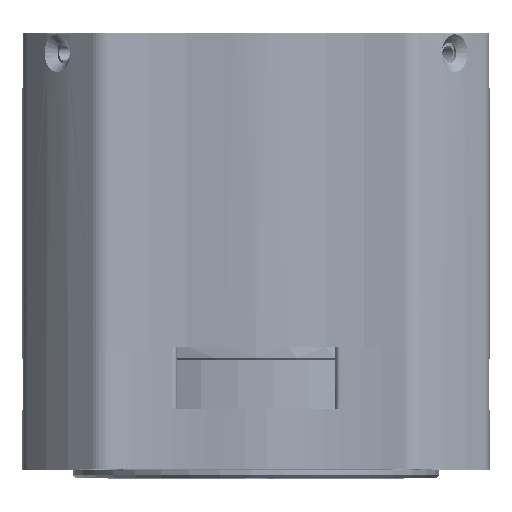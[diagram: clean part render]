
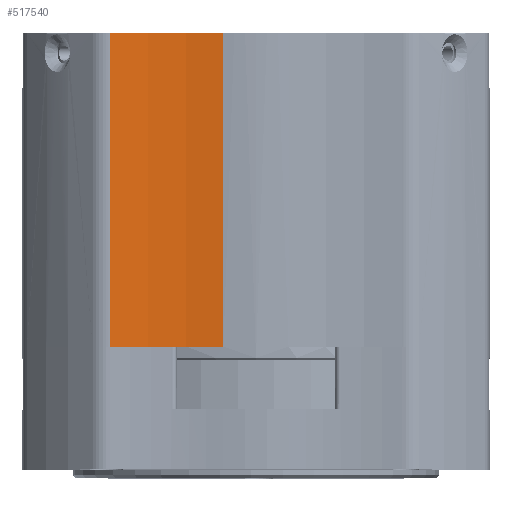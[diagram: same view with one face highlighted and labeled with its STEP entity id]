
A CAD part, top view. The second image highlights one B-rep face of the part: STEP entity #517540.
In plain terms, the highlighted cylindrical face has radius 40 mm (diameter 80 mm), a partial arc.
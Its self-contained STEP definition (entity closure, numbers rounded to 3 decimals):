
#40297 = EDGE_CURVE ( 'NONE', #337484, #126814, #457236, .T. ) ;
#60674 = DIRECTION ( 'NONE',  ( 0., -1., 0. ) ) ;
#109225 = DIRECTION ( 'NONE',  ( 0., 0., 1. ) ) ;
#112405 = CARTESIAN_POINT ( 'NONE',  ( -9.035, 33.4, 64.319 ) ) ;
#114557 = VERTEX_POINT ( 'NONE', #224288 ) ;
#119976 = AXIS2_PLACEMENT_3D ( 'NONE', #497575, #290840, #488035 ) ;
#126814 = VERTEX_POINT ( 'NONE', #134873 ) ;
#133143 = ORIENTED_EDGE ( 'NONE', *, *, #602640, .F. ) ;
#134873 = CARTESIAN_POINT ( 'NONE',  ( -3.471, 33.4, 24.707 ) ) ;
#151672 = ORIENTED_EDGE ( 'NONE', *, *, #40297, .T. ) ;
#165734 = CARTESIAN_POINT ( 'NONE',  ( -3.471, 0., 24.707 ) ) ;
#168330 = VERTEX_POINT ( 'NONE', #425398 ) ;
#192131 = AXIS2_PLACEMENT_3D ( 'NONE', #112405, #60674, #109225 ) ;
#203181 = ORIENTED_EDGE ( 'NONE', *, *, #230660, .T. ) ;
#224288 = CARTESIAN_POINT ( 'NONE',  ( -15.561, 33.4, 24.855 ) ) ;
#230660 = EDGE_CURVE ( 'NONE', #168330, #337484, #295158, .T. ) ;
#233195 = DIRECTION ( 'NONE',  ( 0., -1., 0. ) ) ;
#235451 = ORIENTED_EDGE ( 'NONE', *, *, #479651, .F. ) ;
#275387 = CARTESIAN_POINT ( 'NONE',  ( -9.035, 0., 64.319 ) ) ;
#290840 = DIRECTION ( 'NONE',  ( 0., 1., 0. ) ) ;
#295158 = CIRCLE ( 'NONE', #399911, 40. ) ;
#301783 = DIRECTION ( 'NONE',  ( 0., 1., 0. ) ) ;
#337484 = VERTEX_POINT ( 'NONE', #165734 ) ;
#339372 = FACE_OUTER_BOUND ( 'NONE', #376582, .T. ) ;
#375555 = DIRECTION ( 'NONE',  ( 0., 0., 1. ) ) ;
#376582 = EDGE_LOOP ( 'NONE', ( #151672, #235451, #133143, #203181 ) ) ;
#399911 = AXIS2_PLACEMENT_3D ( 'NONE', #275387, #233195, #375555 ) ;
#402332 = CARTESIAN_POINT ( 'NONE',  ( -3.471, -1.5, 24.707 ) ) ;
#411546 = CARTESIAN_POINT ( 'NONE',  ( -15.561, -1.5, 24.855 ) ) ;
#425398 = CARTESIAN_POINT ( 'NONE',  ( -15.561, 0., 24.855 ) ) ;
#444398 = VECTOR ( 'NONE', #557417, 1000. ) ;
#457236 = LINE ( 'NONE', #402332, #444398 ) ;
#470854 = CIRCLE ( 'NONE', #192131, 40. ) ;
#479651 = EDGE_CURVE ( 'NONE', #114557, #126814, #470854, .T. ) ;
#488035 = DIRECTION ( 'NONE',  ( 0., 0., 1. ) ) ;
#497575 = CARTESIAN_POINT ( 'NONE',  ( -9.035, -1.5, 64.319 ) ) ;
#502175 = LINE ( 'NONE', #411546, #640171 ) ;
#517540 = ADVANCED_FACE ( 'NONE', ( #339372 ), #594650, .F. ) ;
#557417 = DIRECTION ( 'NONE',  ( 0., 1., 0. ) ) ;
#594650 = CYLINDRICAL_SURFACE ( 'NONE', #119976, 40. ) ;
#602640 = EDGE_CURVE ( 'NONE', #168330, #114557, #502175, .T. ) ;
#640171 = VECTOR ( 'NONE', #301783, 1000. ) ;
